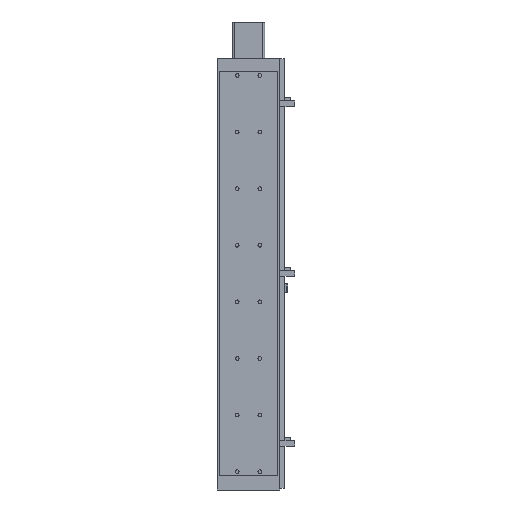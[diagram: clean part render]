
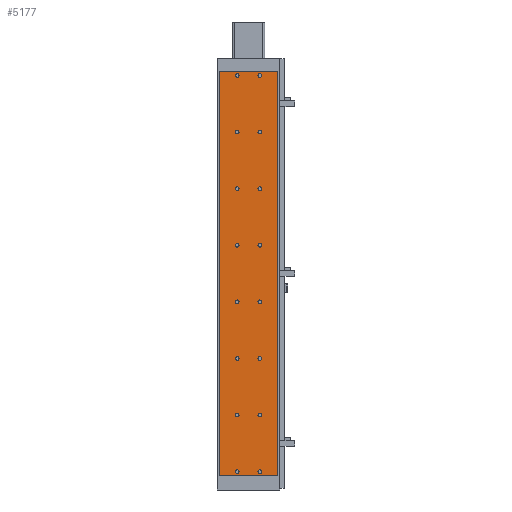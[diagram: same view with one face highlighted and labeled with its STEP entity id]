
A CAD part, front view. The second image highlights one B-rep face of the part: STEP entity #5177.
In plain terms, the highlighted planar face has unit normal (0, -1, 0).
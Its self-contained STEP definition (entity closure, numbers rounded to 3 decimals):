
#105=CARTESIAN_POINT('',(-23.25,0.,32.5));
#106=VERTEX_POINT('',#105);
#107=CARTESIAN_POINT('',(-20.,0.0,32.5));
#108=DIRECTION('',(0.0,1.0,0.0));
#109=DIRECTION('',(1.0,0.0,0.0));
#110=AXIS2_PLACEMENT_3D('',#107,#108,#109);
#111=CIRCLE('',#110,3.25);
#112=EDGE_CURVE('',#106,#106,#111,.T.);
#213=CARTESIAN_POINT('',(16.75,0.,32.5));
#214=VERTEX_POINT('',#213);
#215=CARTESIAN_POINT('',(20.,0.0,32.5));
#216=DIRECTION('',(0.0,1.0,0.0));
#217=DIRECTION('',(1.0,0.0,0.0));
#218=AXIS2_PLACEMENT_3D('',#215,#216,#217);
#219=CIRCLE('',#218,3.25);
#220=EDGE_CURVE('',#214,#214,#219,.T.);
#259=CARTESIAN_POINT('',(-23.25,0.,132.5));
#260=VERTEX_POINT('',#259);
#261=CARTESIAN_POINT('',(-20.,0.0,132.5));
#262=DIRECTION('',(0.0,1.0,0.0));
#263=DIRECTION('',(1.0,0.0,0.0));
#264=AXIS2_PLACEMENT_3D('',#261,#262,#263);
#265=CIRCLE('',#264,3.25);
#266=EDGE_CURVE('',#260,#260,#265,.T.);
#367=CARTESIAN_POINT('',(16.75,0.,132.5));
#368=VERTEX_POINT('',#367);
#369=CARTESIAN_POINT('',(20.,0.0,132.5));
#370=DIRECTION('',(0.0,1.0,0.0));
#371=DIRECTION('',(1.0,0.0,0.0));
#372=AXIS2_PLACEMENT_3D('',#369,#370,#371);
#373=CIRCLE('',#372,3.25);
#374=EDGE_CURVE('',#368,#368,#373,.T.);
#444=CARTESIAN_POINT('',(16.75,0.,732.5));
#445=VERTEX_POINT('',#444);
#446=CARTESIAN_POINT('',(20.,0.0,732.5));
#447=DIRECTION('',(0.0,1.0,0.0));
#448=DIRECTION('',(1.0,0.0,0.0));
#449=AXIS2_PLACEMENT_3D('',#446,#447,#448);
#450=CIRCLE('',#449,3.25);
#451=EDGE_CURVE('',#445,#445,#450,.T.);
#490=CARTESIAN_POINT('',(-23.25,0.,732.5));
#491=VERTEX_POINT('',#490);
#492=CARTESIAN_POINT('',(-20.,0.0,732.5));
#493=DIRECTION('',(0.0,1.0,0.0));
#494=DIRECTION('',(1.0,0.0,0.0));
#495=AXIS2_PLACEMENT_3D('',#492,#493,#494);
#496=CIRCLE('',#495,3.25);
#497=EDGE_CURVE('',#491,#491,#496,.T.);
#567=CARTESIAN_POINT('',(-23.25,0.,532.5));
#568=VERTEX_POINT('',#567);
#569=CARTESIAN_POINT('',(-20.,0.0,532.5));
#570=DIRECTION('',(0.0,1.0,0.0));
#571=DIRECTION('',(1.0,0.0,0.0));
#572=AXIS2_PLACEMENT_3D('',#569,#570,#571);
#573=CIRCLE('',#572,3.25);
#574=EDGE_CURVE('',#568,#568,#573,.T.);
#675=CARTESIAN_POINT('',(16.75,0.,532.5));
#676=VERTEX_POINT('',#675);
#677=CARTESIAN_POINT('',(20.,0.0,532.5));
#678=DIRECTION('',(0.0,1.0,0.0));
#679=DIRECTION('',(1.0,0.0,0.0));
#680=AXIS2_PLACEMENT_3D('',#677,#678,#679);
#681=CIRCLE('',#680,3.25);
#682=EDGE_CURVE('',#676,#676,#681,.T.);
#721=CARTESIAN_POINT('',(-23.25,0.,632.5));
#722=VERTEX_POINT('',#721);
#723=CARTESIAN_POINT('',(-20.,0.0,632.5));
#724=DIRECTION('',(0.0,1.0,0.0));
#725=DIRECTION('',(1.0,0.0,0.0));
#726=AXIS2_PLACEMENT_3D('',#723,#724,#725);
#727=CIRCLE('',#726,3.25);
#728=EDGE_CURVE('',#722,#722,#727,.T.);
#829=CARTESIAN_POINT('',(16.75,0.,632.5));
#830=VERTEX_POINT('',#829);
#831=CARTESIAN_POINT('',(20.,0.0,632.5));
#832=DIRECTION('',(0.0,1.0,0.0));
#833=DIRECTION('',(1.0,0.0,0.0));
#834=AXIS2_PLACEMENT_3D('',#831,#832,#833);
#835=CIRCLE('',#834,3.25);
#836=EDGE_CURVE('',#830,#830,#835,.T.);
#906=CARTESIAN_POINT('',(16.75,0.,232.5));
#907=VERTEX_POINT('',#906);
#908=CARTESIAN_POINT('',(20.,0.0,232.5));
#909=DIRECTION('',(0.0,1.0,0.0));
#910=DIRECTION('',(1.0,0.0,0.0));
#911=AXIS2_PLACEMENT_3D('',#908,#909,#910);
#912=CIRCLE('',#911,3.25);
#913=EDGE_CURVE('',#907,#907,#912,.T.);
#952=CARTESIAN_POINT('',(-23.25,0.,232.5));
#953=VERTEX_POINT('',#952);
#954=CARTESIAN_POINT('',(-20.,0.0,232.5));
#955=DIRECTION('',(0.0,1.0,0.0));
#956=DIRECTION('',(1.0,0.0,0.0));
#957=AXIS2_PLACEMENT_3D('',#954,#955,#956);
#958=CIRCLE('',#957,3.25);
#959=EDGE_CURVE('',#953,#953,#958,.T.);
#1060=CARTESIAN_POINT('',(16.75,0.,432.5));
#1061=VERTEX_POINT('',#1060);
#1062=CARTESIAN_POINT('',(20.,0.0,432.5));
#1063=DIRECTION('',(0.0,1.0,0.0));
#1064=DIRECTION('',(1.0,0.0,0.0));
#1065=AXIS2_PLACEMENT_3D('',#1062,#1063,#1064);
#1066=CIRCLE('',#1065,3.25);
#1067=EDGE_CURVE('',#1061,#1061,#1066,.T.);
#1137=CARTESIAN_POINT('',(-23.25,0.,432.5));
#1138=VERTEX_POINT('',#1137);
#1139=CARTESIAN_POINT('',(-20.,0.0,432.5));
#1140=DIRECTION('',(0.0,1.0,0.0));
#1141=DIRECTION('',(1.0,0.0,0.0));
#1142=AXIS2_PLACEMENT_3D('',#1139,#1140,#1141);
#1143=CIRCLE('',#1142,3.25);
#1144=EDGE_CURVE('',#1138,#1138,#1143,.T.);
#1214=CARTESIAN_POINT('',(16.75,0.,332.5));
#1215=VERTEX_POINT('',#1214);
#1216=CARTESIAN_POINT('',(20.,0.0,332.5));
#1217=DIRECTION('',(0.0,1.0,0.0));
#1218=DIRECTION('',(1.0,0.0,0.0));
#1219=AXIS2_PLACEMENT_3D('',#1216,#1217,#1218);
#1220=CIRCLE('',#1219,3.25);
#1221=EDGE_CURVE('',#1215,#1215,#1220,.T.);
#1291=CARTESIAN_POINT('',(-23.25,0.,332.5));
#1292=VERTEX_POINT('',#1291);
#1293=CARTESIAN_POINT('',(-20.,0.0,332.5));
#1294=DIRECTION('',(0.0,1.0,0.0));
#1295=DIRECTION('',(1.0,0.0,0.0));
#1296=AXIS2_PLACEMENT_3D('',#1293,#1294,#1295);
#1297=CIRCLE('',#1296,3.25);
#1298=EDGE_CURVE('',#1292,#1292,#1297,.T.);
#5050=CARTESIAN_POINT('',(52.,0.,25.));
#5051=VERTEX_POINT('',#5050);
#5058=CARTESIAN_POINT('',(-52.0,0.,25.));
#5059=VERTEX_POINT('',#5058);
#5060=CARTESIAN_POINT('',(-52.0,0.,25.));
#5061=DIRECTION('',(1.0,0.0,0.0));
#5062=VECTOR('',#5061,104.0);
#5063=LINE('',#5060,#5062);
#5064=EDGE_CURVE('',#5059,#5051,#5063,.T.);
#5081=CARTESIAN_POINT('',(-52.,0.,740.0));
#5082=VERTEX_POINT('',#5081);
#5083=CARTESIAN_POINT('',(-52.0,0.,25.));
#5084=DIRECTION('',(0.0,0.0,1.0));
#5085=VECTOR('',#5084,715.0);
#5086=LINE('',#5083,#5085);
#5087=EDGE_CURVE('',#5059,#5082,#5086,.T.);
#5106=CARTESIAN_POINT('',(52.0,0.,0.0));
#5107=DIRECTION('',(0.0,-1.0,0.0));
#5108=DIRECTION('',(0.0,0.0,-1.0));
#5109=AXIS2_PLACEMENT_3D('',#5106,#5107,#5108);
#5110=PLANE('',#5109);
#5111=ORIENTED_EDGE('',*,*,#5064,.T.);
#5112=CARTESIAN_POINT('',(52.,0.,740.0));
#5113=VERTEX_POINT('',#5112);
#5114=CARTESIAN_POINT('',(52.,0.,25.));
#5115=DIRECTION('',(0.0,0.0,1.0));
#5116=VECTOR('',#5115,715.0);
#5117=LINE('',#5114,#5116);
#5118=EDGE_CURVE('',#5051,#5113,#5117,.T.);
#5119=ORIENTED_EDGE('',*,*,#5118,.T.);
#5120=CARTESIAN_POINT('',(52.,0.,740.0));
#5121=DIRECTION('',(-1.0,0.0,0.0));
#5122=VECTOR('',#5121,104.);
#5123=LINE('',#5120,#5122);
#5124=EDGE_CURVE('',#5113,#5082,#5123,.T.);
#5125=ORIENTED_EDGE('',*,*,#5124,.T.);
#5126=ORIENTED_EDGE('',*,*,#5087,.F.);
#5127=EDGE_LOOP('',(#5111,#5119,#5125,#5126));
#5128=FACE_OUTER_BOUND('',#5127,.T.);
#5129=ORIENTED_EDGE('',*,*,#112,.T.);
#5130=EDGE_LOOP('',(#5129));
#5131=FACE_BOUND('',#5130,.T.);
#5132=ORIENTED_EDGE('',*,*,#220,.T.);
#5133=EDGE_LOOP('',(#5132));
#5134=FACE_BOUND('',#5133,.T.);
#5135=ORIENTED_EDGE('',*,*,#266,.T.);
#5136=EDGE_LOOP('',(#5135));
#5137=FACE_BOUND('',#5136,.T.);
#5138=ORIENTED_EDGE('',*,*,#374,.T.);
#5139=EDGE_LOOP('',(#5138));
#5140=FACE_BOUND('',#5139,.T.);
#5141=ORIENTED_EDGE('',*,*,#451,.T.);
#5142=EDGE_LOOP('',(#5141));
#5143=FACE_BOUND('',#5142,.T.);
#5144=ORIENTED_EDGE('',*,*,#497,.T.);
#5145=EDGE_LOOP('',(#5144));
#5146=FACE_BOUND('',#5145,.T.);
#5147=ORIENTED_EDGE('',*,*,#574,.T.);
#5148=EDGE_LOOP('',(#5147));
#5149=FACE_BOUND('',#5148,.T.);
#5150=ORIENTED_EDGE('',*,*,#682,.T.);
#5151=EDGE_LOOP('',(#5150));
#5152=FACE_BOUND('',#5151,.T.);
#5153=ORIENTED_EDGE('',*,*,#728,.T.);
#5154=EDGE_LOOP('',(#5153));
#5155=FACE_BOUND('',#5154,.T.);
#5156=ORIENTED_EDGE('',*,*,#836,.T.);
#5157=EDGE_LOOP('',(#5156));
#5158=FACE_BOUND('',#5157,.T.);
#5159=ORIENTED_EDGE('',*,*,#913,.T.);
#5160=EDGE_LOOP('',(#5159));
#5161=FACE_BOUND('',#5160,.T.);
#5162=ORIENTED_EDGE('',*,*,#959,.T.);
#5163=EDGE_LOOP('',(#5162));
#5164=FACE_BOUND('',#5163,.T.);
#5165=ORIENTED_EDGE('',*,*,#1067,.T.);
#5166=EDGE_LOOP('',(#5165));
#5167=FACE_BOUND('',#5166,.T.);
#5168=ORIENTED_EDGE('',*,*,#1144,.T.);
#5169=EDGE_LOOP('',(#5168));
#5170=FACE_BOUND('',#5169,.T.);
#5171=ORIENTED_EDGE('',*,*,#1221,.T.);
#5172=EDGE_LOOP('',(#5171));
#5173=FACE_BOUND('',#5172,.T.);
#5174=ORIENTED_EDGE('',*,*,#1298,.T.);
#5175=EDGE_LOOP('',(#5174));
#5176=FACE_BOUND('',#5175,.T.);
#5177=ADVANCED_FACE('',(#5128,#5131,#5134,#5137,#5140,#5143,#5146,#5149,#5152,#5155,#5158,#5161,#5164,#5167,#5170,#5173,#5176),#5110,.T.);
